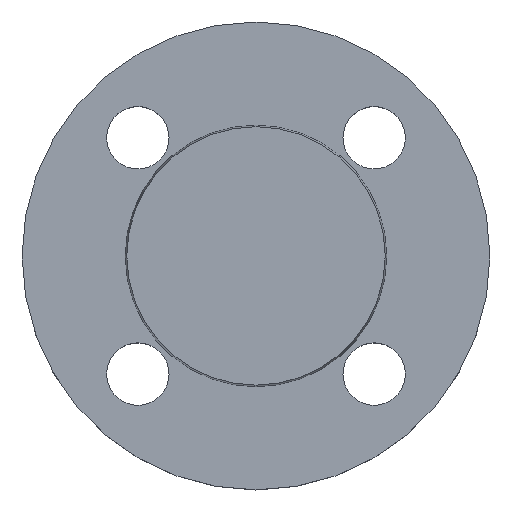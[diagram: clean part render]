
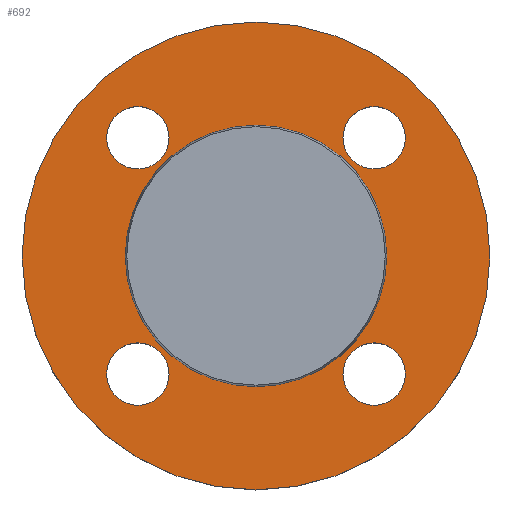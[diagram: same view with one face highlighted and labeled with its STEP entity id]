
A CAD part, top view. The second image highlights one B-rep face of the part: STEP entity #692.
In plain terms, the highlighted planar face has unit normal (0, 0, 1).
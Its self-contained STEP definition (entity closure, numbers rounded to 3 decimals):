
#3 = DIRECTION ( 'NONE',  ( 1., 0., 0. ) ) ;
#4 = EDGE_CURVE ( 'NONE', #176, #352, #22, .T. ) ;
#5 = EDGE_CURVE ( 'NONE', #127, #193, #129, .T. ) ;
#8 = AXIS2_PLACEMENT_3D ( 'NONE', #592, #272, #3 ) ;
#9 = DIRECTION ( 'NONE',  ( -1., 0., 0. ) ) ;
#15 = CIRCLE ( 'NONE', #732, 52.5 ) ;
#22 = CIRCLE ( 'NONE', #464, 29.353 ) ;
#51 = CIRCLE ( 'NONE', #8, 7. ) ;
#53 = EDGE_LOOP ( 'NONE', ( #154, #332 ) ) ;
#67 = FACE_BOUND ( 'NONE', #124, .T. ) ;
#93 = AXIS2_PLACEMENT_3D ( 'NONE', #653, #661, #662 ) ;
#113 = ORIENTED_EDGE ( 'NONE', *, *, #350, .T. ) ;
#115 = ORIENTED_EDGE ( 'NONE', *, *, #460, .T. ) ;
#124 = EDGE_LOOP ( 'NONE', ( #194, #317 ) ) ;
#126 = EDGE_LOOP ( 'NONE', ( #115, #253 ) ) ;
#127 = VERTEX_POINT ( 'NONE', #438 ) ;
#129 = CIRCLE ( 'NONE', #330, 7. ) ;
#131 = VERTEX_POINT ( 'NONE', #440 ) ;
#132 = EDGE_CURVE ( 'NONE', #140, #203, #251, .T. ) ;
#140 = VERTEX_POINT ( 'NONE', #458 ) ;
#141 = VERTEX_POINT ( 'NONE', #462 ) ;
#146 = EDGE_CURVE ( 'NONE', #242, #186, #195, .T. ) ;
#147 = EDGE_LOOP ( 'NONE', ( #235, #259 ) ) ;
#154 = ORIENTED_EDGE ( 'NONE', *, *, #146, .T. ) ;
#159 = CIRCLE ( 'NONE', #327, 29.353 ) ;
#166 = EDGE_LOOP ( 'NONE', ( #199, #325 ) ) ;
#172 = VERTEX_POINT ( 'NONE', #478 ) ;
#175 = ORIENTED_EDGE ( 'NONE', *, *, #4, .T. ) ;
#176 = VERTEX_POINT ( 'NONE', #486 ) ;
#178 = DIRECTION ( 'NONE',  ( 0., 0., 1. ) ) ;
#186 = VERTEX_POINT ( 'NONE', #487 ) ;
#193 = VERTEX_POINT ( 'NONE', #496 ) ;
#194 = ORIENTED_EDGE ( 'NONE', *, *, #132, .T. ) ;
#195 = CIRCLE ( 'NONE', #481, 7. ) ;
#199 = ORIENTED_EDGE ( 'NONE', *, *, #5, .T. ) ;
#203 = VERTEX_POINT ( 'NONE', #499 ) ;
#224 = FACE_BOUND ( 'NONE', #166, .T. ) ;
#235 = ORIENTED_EDGE ( 'NONE', *, *, #621, .F. ) ;
#242 = VERTEX_POINT ( 'NONE', #504 ) ;
#247 = AXIS2_PLACEMENT_3D ( 'NONE', #441, #443, #444 ) ;
#251 = CIRCLE ( 'NONE', #247, 7. ) ;
#253 = ORIENTED_EDGE ( 'NONE', *, *, #422, .T. ) ;
#259 = ORIENTED_EDGE ( 'NONE', *, *, #410, .F. ) ;
#272 = DIRECTION ( 'NONE',  ( 0., 0., -1. ) ) ;
#281 = AXIS2_PLACEMENT_3D ( 'NONE', #610, #613, #614 ) ;
#307 = CIRCLE ( 'NONE', #281, 7. ) ;
#317 = ORIENTED_EDGE ( 'NONE', *, *, #408, .T. ) ;
#325 = ORIENTED_EDGE ( 'NONE', *, *, #425, .T. ) ;
#326 = EDGE_LOOP ( 'NONE', ( #175, #113 ) ) ;
#327 = AXIS2_PLACEMENT_3D ( 'NONE', #556, #558, #559 ) ;
#330 = AXIS2_PLACEMENT_3D ( 'NONE', #366, #367, #370 ) ;
#331 = AXIS2_PLACEMENT_3D ( 'NONE', #679, #178, #375 ) ;
#332 = ORIENTED_EDGE ( 'NONE', *, *, #639, .T. ) ;
#345 = CIRCLE ( 'NONE', #93, 7. ) ;
#348 = VERTEX_POINT ( 'NONE', #553 ) ;
#350 = EDGE_CURVE ( 'NONE', #352, #176, #159, .T. ) ;
#352 = VERTEX_POINT ( 'NONE', #562 ) ;
#358 = CARTESIAN_POINT ( 'NONE',  ( 0., 0., -2. ) ) ;
#359 = DIRECTION ( 'NONE',  ( 0., 0., -1. ) ) ;
#364 = DIRECTION ( 'NONE',  ( -1., 0., 0. ) ) ;
#366 = CARTESIAN_POINT ( 'NONE',  ( -26.517, 26.517, -2. ) ) ;
#367 = DIRECTION ( 'NONE',  ( 0., 0., -1. ) ) ;
#370 = DIRECTION ( 'NONE',  ( 1., 0., 0. ) ) ;
#375 = DIRECTION ( 'NONE',  ( 1., 0., 0. ) ) ;
#376 = CIRCLE ( 'NONE', #723, 7. ) ;
#377 = CIRCLE ( 'NONE', #492, 52.5 ) ;
#408 = EDGE_CURVE ( 'NONE', #203, #140, #467, .T. ) ;
#410 = EDGE_CURVE ( 'NONE', #141, #172, #377, .T. ) ;
#422 = EDGE_CURVE ( 'NONE', #348, #131, #376, .T. ) ;
#425 = EDGE_CURVE ( 'NONE', #193, #127, #307, .T. ) ;
#438 = CARTESIAN_POINT ( 'NONE',  ( -19.517, 26.517, -2. ) ) ;
#440 = CARTESIAN_POINT ( 'NONE',  ( -19.517, -26.517, -2. ) ) ;
#441 = CARTESIAN_POINT ( 'NONE',  ( 26.517, 26.517, -2. ) ) ;
#443 = DIRECTION ( 'NONE',  ( 0., 0., -1. ) ) ;
#444 = DIRECTION ( 'NONE',  ( 1., 0., 0. ) ) ;
#458 = CARTESIAN_POINT ( 'NONE',  ( 33.517, 26.517, -2. ) ) ;
#460 = EDGE_CURVE ( 'NONE', #131, #348, #345, .T. ) ;
#462 = CARTESIAN_POINT ( 'NONE',  ( -52.5, 0., -2. ) ) ;
#463 = CARTESIAN_POINT ( 'NONE',  ( 26.517, -26.517, -2. ) ) ;
#464 = AXIS2_PLACEMENT_3D ( 'NONE', #358, #359, #364 ) ;
#466 = DIRECTION ( 'NONE',  ( 0., 0., -1. ) ) ;
#467 = CIRCLE ( 'NONE', #599, 7. ) ;
#470 = DIRECTION ( 'NONE',  ( 1., 0., 0. ) ) ;
#478 = CARTESIAN_POINT ( 'NONE',  ( 52.5, 0., -2. ) ) ;
#481 = AXIS2_PLACEMENT_3D ( 'NONE', #463, #466, #470 ) ;
#486 = CARTESIAN_POINT ( 'NONE',  ( -29.353, 0., -2. ) ) ;
#487 = CARTESIAN_POINT ( 'NONE',  ( 19.517, -26.517, -2. ) ) ;
#492 = AXIS2_PLACEMENT_3D ( 'NONE', #591, #593, #595 ) ;
#496 = CARTESIAN_POINT ( 'NONE',  ( -33.517, 26.517, -2. ) ) ;
#499 = CARTESIAN_POINT ( 'NONE',  ( 19.517, 26.517, -2. ) ) ;
#504 = CARTESIAN_POINT ( 'NONE',  ( 33.517, -26.517, -2. ) ) ;
#506 = FACE_BOUND ( 'NONE', #326, .T. ) ;
#553 = CARTESIAN_POINT ( 'NONE',  ( -33.517, -26.517, -2. ) ) ;
#556 = CARTESIAN_POINT ( 'NONE',  ( 0., 0., -2. ) ) ;
#557 = FACE_OUTER_BOUND ( 'NONE', #147, .T. ) ;
#558 = DIRECTION ( 'NONE',  ( 0., 0., -1. ) ) ;
#559 = DIRECTION ( 'NONE',  ( -1., 0., 0. ) ) ;
#562 = CARTESIAN_POINT ( 'NONE',  ( 29.353, 0., -2. ) ) ;
#578 = CARTESIAN_POINT ( 'NONE',  ( 26.517, 26.517, -2. ) ) ;
#584 = DIRECTION ( 'NONE',  ( 0., 0., -1. ) ) ;
#585 = DIRECTION ( 'NONE',  ( 1., 0., 0. ) ) ;
#591 = CARTESIAN_POINT ( 'NONE',  ( 0., 0., -2. ) ) ;
#592 = CARTESIAN_POINT ( 'NONE',  ( 26.517, -26.517, -2. ) ) ;
#593 = DIRECTION ( 'NONE',  ( 0., 0., -1. ) ) ;
#595 = DIRECTION ( 'NONE',  ( -1., 0., 0. ) ) ;
#599 = AXIS2_PLACEMENT_3D ( 'NONE', #578, #584, #585 ) ;
#604 = CARTESIAN_POINT ( 'NONE',  ( -26.517, -26.517, -2. ) ) ;
#605 = DIRECTION ( 'NONE',  ( 0., 0., -1. ) ) ;
#606 = DIRECTION ( 'NONE',  ( 1., 0., 0. ) ) ;
#610 = CARTESIAN_POINT ( 'NONE',  ( -26.517, 26.517, -2. ) ) ;
#613 = DIRECTION ( 'NONE',  ( 0., 0., -1. ) ) ;
#614 = DIRECTION ( 'NONE',  ( 1., 0., 0. ) ) ;
#620 = FACE_BOUND ( 'NONE', #53, .T. ) ;
#621 = EDGE_CURVE ( 'NONE', #172, #141, #15, .T. ) ;
#639 = EDGE_CURVE ( 'NONE', #186, #242, #51, .T. ) ;
#653 = CARTESIAN_POINT ( 'NONE',  ( -26.517, -26.517, -2. ) ) ;
#661 = DIRECTION ( 'NONE',  ( 0., 0., -1. ) ) ;
#662 = DIRECTION ( 'NONE',  ( 1., 0., 0. ) ) ;
#679 = CARTESIAN_POINT ( 'NONE',  ( 29.353, 0., -2. ) ) ;
#692 = ADVANCED_FACE ( 'NONE', ( #620, #738, #224, #67, #506, #557 ), #737, .T. ) ;
#721 = DIRECTION ( 'NONE',  ( 0., 0., -1. ) ) ;
#723 = AXIS2_PLACEMENT_3D ( 'NONE', #604, #605, #606 ) ;
#732 = AXIS2_PLACEMENT_3D ( 'NONE', #740, #721, #9 ) ;
#737 = PLANE ( 'NONE',  #331 ) ;
#738 = FACE_BOUND ( 'NONE', #126, .T. ) ;
#740 = CARTESIAN_POINT ( 'NONE',  ( 0., 0., -2. ) ) ;
